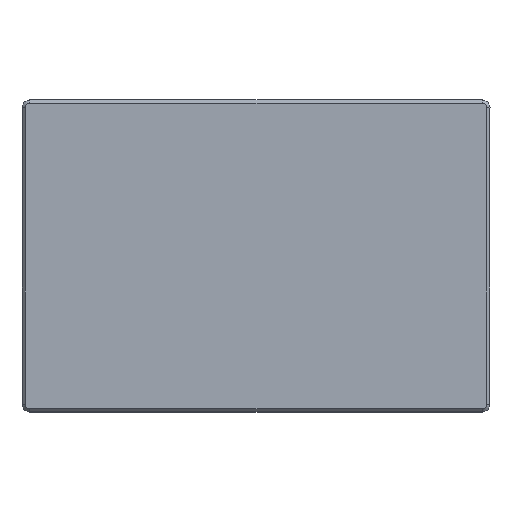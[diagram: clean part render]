
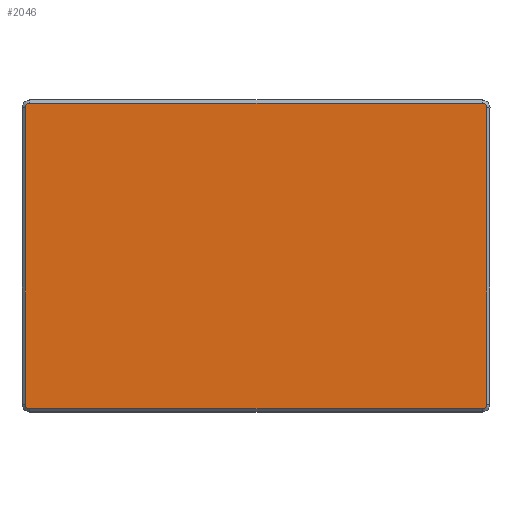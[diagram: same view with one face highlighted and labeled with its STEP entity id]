
A CAD part, top view. The second image highlights one B-rep face of the part: STEP entity #2046.
In plain terms, the highlighted planar face has unit normal (0, 0, 1).
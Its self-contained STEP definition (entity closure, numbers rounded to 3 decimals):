
#11 = EDGE_CURVE ( 'NONE', #1910, #2789, #2248, .T. ) ;
#13 = VECTOR ( 'NONE', #2032, 1000. ) ;
#40 = ORIENTED_EDGE ( 'NONE', *, *, #1499, .T. ) ;
#53 = ORIENTED_EDGE ( 'NONE', *, *, #228, .T. ) ;
#65 = CARTESIAN_POINT ( 'NONE',  ( -14.5, 9.8, 0. ) ) ;
#72 = ORIENTED_EDGE ( 'NONE', *, *, #2658, .T. ) ;
#86 = ORIENTED_EDGE ( 'NONE', *, *, #1175, .T. ) ;
#91 = ORIENTED_EDGE ( 'NONE', *, *, #11, .T. ) ;
#99 = DIRECTION ( 'NONE',  ( 1., 0., 0. ) ) ;
#106 = DIRECTION ( 'NONE',  ( 0., 0., 1. ) ) ;
#107 = CARTESIAN_POINT ( 'NONE',  ( 0., 0., 0. ) ) ;
#108 = AXIS2_PLACEMENT_3D ( 'NONE', #107, #106, #99 ) ;
#112 = PLANE ( 'NONE',  #108 ) ;
#114 = FACE_OUTER_BOUND ( 'NONE', #2838, .T. ) ;
#115 = ORIENTED_EDGE ( 'NONE', *, *, #602, .T. ) ;
#120 = ORIENTED_EDGE ( 'NONE', *, *, #2147, .T. ) ;
#228 = EDGE_CURVE ( 'NONE', #279, #950, #1040, .T. ) ;
#279 = VERTEX_POINT ( 'NONE', #773 ) ;
#280 = DIRECTION ( 'NONE',  ( 0., 0., 1. ) ) ;
#352 = CARTESIAN_POINT ( 'NONE',  ( -14.8, -9.5, 0. ) ) ;
#602 = EDGE_CURVE ( 'NONE', #2933, #1174, #839, .T. ) ;
#740 = AXIS2_PLACEMENT_3D ( 'NONE', #1192, #280, #2307 ) ;
#773 = CARTESIAN_POINT ( 'NONE',  ( 14.8, -9.5, 0. ) ) ;
#821 = CIRCLE ( 'NONE', #2565, 0.3 ) ;
#839 = CIRCLE ( 'NONE', #740, 0.3 ) ;
#950 = VERTEX_POINT ( 'NONE', #2577 ) ;
#1022 = DIRECTION ( 'NONE',  ( 0., 1., 0. ) ) ;
#1027 = CARTESIAN_POINT ( 'NONE',  ( 14.8, 0., 0. ) ) ;
#1040 = LINE ( 'NONE', #1027, #2943 ) ;
#1069 = EDGE_CURVE ( 'NONE', #1174, #1910, #2358, .T. ) ;
#1155 = DIRECTION ( 'NONE',  ( -1., 0., 0. ) ) ;
#1159 = DIRECTION ( 'NONE',  ( 0., 0., 1. ) ) ;
#1167 = CARTESIAN_POINT ( 'NONE',  ( 14.5, 9.5, 0. ) ) ;
#1174 = VERTEX_POINT ( 'NONE', #2044 ) ;
#1175 = EDGE_CURVE ( 'NONE', #2789, #1439, #2042, .T. ) ;
#1192 = CARTESIAN_POINT ( 'NONE',  ( -14.5, 9.5, 0. ) ) ;
#1195 = CARTESIAN_POINT ( 'NONE',  ( 14.5, -9.8, 0. ) ) ;
#1309 = CIRCLE ( 'NONE', #2008, 0.3 ) ;
#1434 = CARTESIAN_POINT ( 'NONE',  ( 14.5, -9.5, 0. ) ) ;
#1439 = VERTEX_POINT ( 'NONE', #1195 ) ;
#1499 = EDGE_CURVE ( 'NONE', #950, #2571, #1309, .T. ) ;
#1592 = CARTESIAN_POINT ( 'NONE',  ( 14.5, 9.8, 0. ) ) ;
#1595 = VECTOR ( 'NONE', #2348, 1000. ) ;
#1910 = VERTEX_POINT ( 'NONE', #352 ) ;
#1938 = ORIENTED_EDGE ( 'NONE', *, *, #1069, .T. ) ;
#2008 = AXIS2_PLACEMENT_3D ( 'NONE', #1167, #1159, #1155 ) ;
#2032 = DIRECTION ( 'NONE',  ( 1., 0., 0. ) ) ;
#2036 = CARTESIAN_POINT ( 'NONE',  ( 0., -9.8, 0. ) ) ;
#2042 = LINE ( 'NONE', #2036, #13 ) ;
#2044 = CARTESIAN_POINT ( 'NONE',  ( -14.8, 9.5, 0. ) ) ;
#2046 = ADVANCED_FACE ( 'NONE', ( #114 ), #112, .T. ) ;
#2147 = EDGE_CURVE ( 'NONE', #2571, #2933, #2385, .T. ) ;
#2202 = AXIS2_PLACEMENT_3D ( 'NONE', #2347, #2343, #2333 ) ;
#2241 = CARTESIAN_POINT ( 'NONE',  ( -14.5, -9.8, 0. ) ) ;
#2248 = CIRCLE ( 'NONE', #2202, 0.3 ) ;
#2261 = VECTOR ( 'NONE', #2367, 1000. ) ;
#2307 = DIRECTION ( 'NONE',  ( 0., 1., 0. ) ) ;
#2333 = DIRECTION ( 'NONE',  ( 0., 1., 0. ) ) ;
#2343 = DIRECTION ( 'NONE',  ( 0., 0., 1. ) ) ;
#2347 = CARTESIAN_POINT ( 'NONE',  ( -14.5, -9.5, 0. ) ) ;
#2348 = DIRECTION ( 'NONE',  ( 0., -1., 0. ) ) ;
#2356 = CARTESIAN_POINT ( 'NONE',  ( -14.8, 0., 0. ) ) ;
#2358 = LINE ( 'NONE', #2356, #1595 ) ;
#2367 = DIRECTION ( 'NONE',  ( -1., 0., 0. ) ) ;
#2372 = CARTESIAN_POINT ( 'NONE',  ( 0., 9.8, 0. ) ) ;
#2385 = LINE ( 'NONE', #2372, #2261 ) ;
#2565 = AXIS2_PLACEMENT_3D ( 'NONE', #1434, #2804, #2901 ) ;
#2571 = VERTEX_POINT ( 'NONE', #1592 ) ;
#2577 = CARTESIAN_POINT ( 'NONE',  ( 14.8, 9.5, 0. ) ) ;
#2658 = EDGE_CURVE ( 'NONE', #1439, #279, #821, .T. ) ;
#2789 = VERTEX_POINT ( 'NONE', #2241 ) ;
#2804 = DIRECTION ( 'NONE',  ( 0., 0., 1. ) ) ;
#2838 = EDGE_LOOP ( 'NONE', ( #120, #115, #1938, #91, #86, #72, #53, #40 ) ) ;
#2901 = DIRECTION ( 'NONE',  ( -1., 0., 0. ) ) ;
#2933 = VERTEX_POINT ( 'NONE', #65 ) ;
#2943 = VECTOR ( 'NONE', #1022, 1000. ) ;
